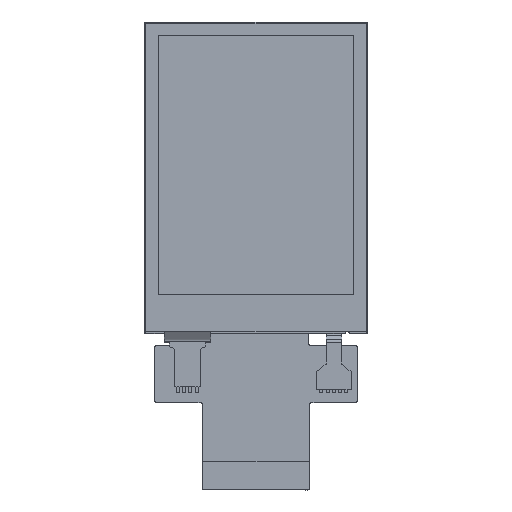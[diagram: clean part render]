
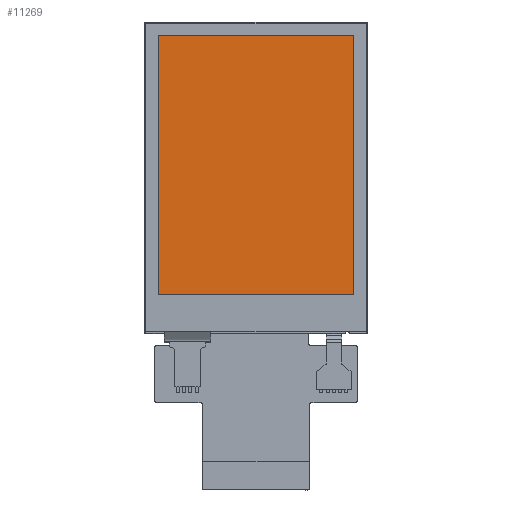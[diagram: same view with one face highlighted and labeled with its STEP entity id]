
A CAD part, top view. The second image highlights one B-rep face of the part: STEP entity #11269.
In plain terms, the highlighted planar face has unit normal (0, 0, 1).
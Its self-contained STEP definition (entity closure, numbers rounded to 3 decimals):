
#9 = ORIENTED_EDGE ( 'NONE', *, *, #8597, .T. ) ;
#195 = AXIS2_PLACEMENT_3D ( 'NONE', #1452, #15318, #2965 ) ;
#703 = ORIENTED_EDGE ( 'NONE', *, *, #13049, .T. ) ;
#971 = VERTEX_POINT ( 'NONE', #6483 ) ;
#1127 = LINE ( 'NONE', #15333, #7706 ) ;
#1452 = CARTESIAN_POINT ( 'NONE',  ( 77.915, 45.113, 1.43 ) ) ;
#1892 = DIRECTION ( 'NONE',  ( -1., 0., 0. ) ) ;
#2965 = DIRECTION ( 'NONE',  ( 0., -1., 0. ) ) ;
#4042 = DIRECTION ( 'NONE',  ( 0., -1., 0. ) ) ;
#4291 = EDGE_LOOP ( 'NONE', ( #4422, #9, #12479, #703 ) ) ;
#4422 = ORIENTED_EDGE ( 'NONE', *, *, #20454, .T. ) ;
#4596 = VERTEX_POINT ( 'NONE', #15225 ) ;
#5102 = CARTESIAN_POINT ( 'NONE',  ( 96.675, 72.323, 1.43 ) ) ;
#5666 = DIRECTION ( 'NONE',  ( 1., 0., 0. ) ) ;
#6483 = CARTESIAN_POINT ( 'NONE',  ( 59.155, 72.323, 1.43 ) ) ;
#7706 = VECTOR ( 'NONE', #22448, 1000. ) ;
#8322 = FACE_OUTER_BOUND ( 'NONE', #4291, .T. ) ;
#8597 = EDGE_CURVE ( 'NONE', #21198, #971, #9449, .T. ) ;
#8971 = VECTOR ( 'NONE', #5666, 1000. ) ;
#9449 = LINE ( 'NONE', #16558, #16341 ) ;
#9511 = LINE ( 'NONE', #17916, #8971 ) ;
#9516 = VERTEX_POINT ( 'NONE', #14997 ) ;
#10425 = PLANE ( 'NONE',  #195 ) ;
#11267 = VECTOR ( 'NONE', #4042, 1000. ) ;
#11269 = ADVANCED_FACE ( 'NONE', ( #8322 ), #10425, .T. ) ;
#12479 = ORIENTED_EDGE ( 'NONE', *, *, #17541, .T. ) ;
#12798 = LINE ( 'NONE', #21419, #11267 ) ;
#13049 = EDGE_CURVE ( 'NONE', #9516, #4596, #9511, .T. ) ;
#14997 = CARTESIAN_POINT ( 'NONE',  ( 59.155, 22.563, 1.43 ) ) ;
#15225 = CARTESIAN_POINT ( 'NONE',  ( 96.675, 22.563, 1.43 ) ) ;
#15318 = DIRECTION ( 'NONE',  ( 0., 0., 1. ) ) ;
#15333 = CARTESIAN_POINT ( 'NONE',  ( 96.675, 22.563, 1.43 ) ) ;
#16341 = VECTOR ( 'NONE', #1892, 1000. ) ;
#16558 = CARTESIAN_POINT ( 'NONE',  ( 96.675, 72.323, 1.43 ) ) ;
#17541 = EDGE_CURVE ( 'NONE', #971, #9516, #12798, .T. ) ;
#17916 = CARTESIAN_POINT ( 'NONE',  ( 59.155, 22.563, 1.43 ) ) ;
#20454 = EDGE_CURVE ( 'NONE', #4596, #21198, #1127, .T. ) ;
#21198 = VERTEX_POINT ( 'NONE', #5102 ) ;
#21419 = CARTESIAN_POINT ( 'NONE',  ( 59.155, 72.323, 1.43 ) ) ;
#22448 = DIRECTION ( 'NONE',  ( 0., 1., 0. ) ) ;
